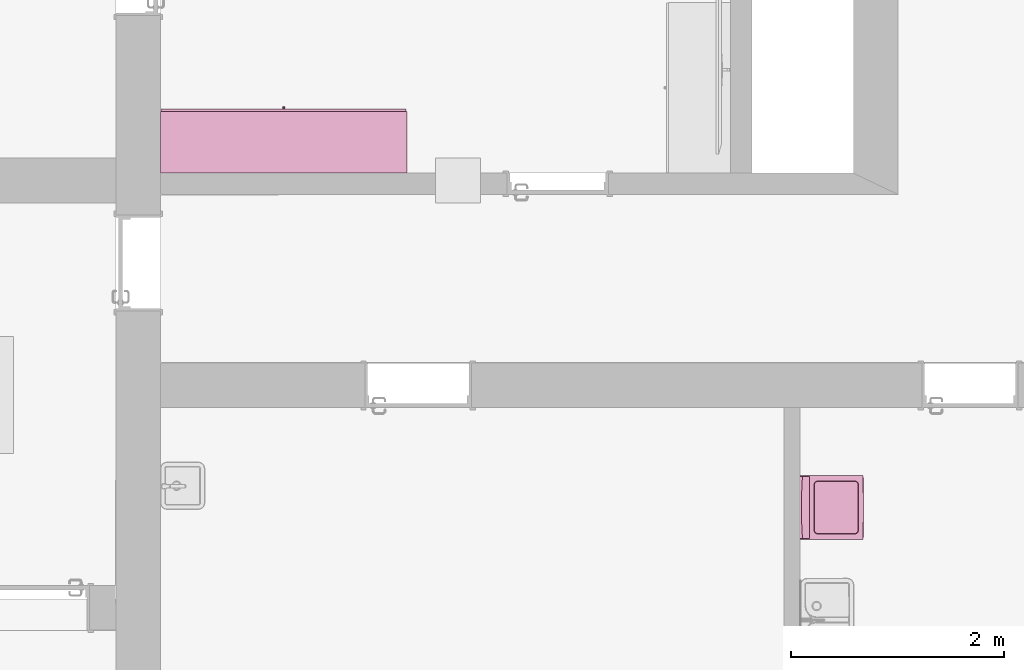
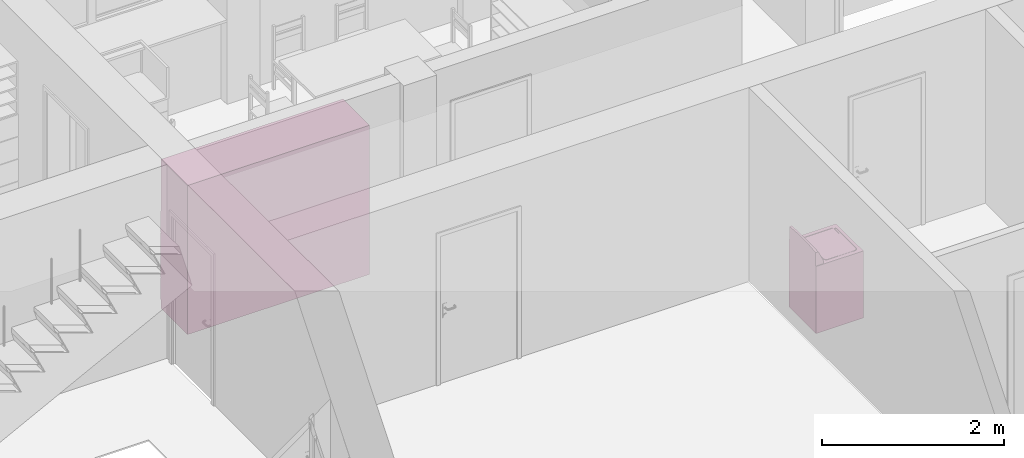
# One storey, part 104 of 127: 2 furnishings.
"""IFC2X3 building model written with IfcOpenShell, lengths in millimetres."""

from ifc_helpers import new_model, entity, si_unit, converted_unit, derived_unit, money_unit, direction, frame, origin_with_axes, place, context, subcontext, project, spatial, faceted_brep, type_object, element, save


model = new_model("IFC2X3")

# Units and contexts
model_context = context("Model", 3, precision=1e-05, world=origin_with_axes(), true_north=direction((0.0, 1.0)))
body_context = subcontext(model_context, "Body", "Model", "MODEL_VIEW")
ifc_project = project(units=[si_unit("LENGTHUNIT", "METRE", prefix="MILLI"), si_unit("AREAUNIT", "SQUARE_METRE"), si_unit("VOLUMEUNIT", "CUBIC_METRE"), converted_unit("PLANEANGLEUNIT", "DEGREE", entity("IfcPlaneAngleMeasure", 0.0174532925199), si_unit("PLANEANGLEUNIT", "RADIAN"), dimensions=[0, 0, 0, 0, 0, 0, 0]), si_unit("SOLIDANGLEUNIT", "STERADIAN"), money_unit("EUR"), converted_unit("TIMEUNIT", "Year", entity("IfcTimeMeasure", 31556926.0), si_unit("TIMEUNIT", "SECOND"), dimensions=[0, 0, 1, 0, 0, 0, 0]), si_unit("MASSUNIT", "GRAM", prefix="KILO"), si_unit("THERMODYNAMICTEMPERATUREUNIT", "DEGREE_CELSIUS"), si_unit("LUMINOUSINTENSITYUNIT", "LUMEN"), si_unit("ENERGYUNIT", "JOULE", prefix="MEGA"), derived_unit("THERMALCONDUCTANCEUNIT", [(si_unit("POWERUNIT", "WATT"), 1), (si_unit("LENGTHUNIT", "METRE"), -1), (si_unit("THERMODYNAMICTEMPERATUREUNIT", "KELVIN"), -1)]), derived_unit("SPECIFICHEATCAPACITYUNIT", [(si_unit("ENERGYUNIT", "JOULE"), 1), (si_unit("MASSUNIT", "GRAM", prefix="KILO"), -1), (si_unit("THERMODYNAMICTEMPERATUREUNIT", "KELVIN"), -1)]), derived_unit("MASSDENSITYUNIT", [(si_unit("MASSUNIT", "GRAM", prefix="KILO"), 1), (si_unit("VOLUMEUNIT", "CUBIC_METRE"), -1)])], contexts=[model_context])

# Site, building, storey
site_placement = place(None, origin_with_axes())
site = spatial("IfcSite", under=ifc_project, at=site_placement, Name="Site", CompositionType="ELEMENT")
building_placement = place(site_placement, origin_with_axes())
building = spatial("IfcBuilding", under=site, at=building_placement, Name="Building", CompositionType="ELEMENT")
storey_placement = place(building_placement, origin_with_axes())
storey = spatial("IfcBuildingStorey", under=building, at=storey_placement, Name="1 KORRUS", CompositionType="ELEMENT", Elevation=0.0)

# Furnishings
furnishing_element_type_1 = type_object("IfcFurnishingElementType", Name="Washer 22")
furnishing_1_placement = place(storey_placement, frame((37143.4019082, 39746.1689617, 0.0), z_axis=(0.0, 0.0, 1.0), x_axis=(0.0, 1.0, 0.0)))
element("IfcFurnishingElement", 1, at=furnishing_1_placement, inside=storey, type_object=furnishing_element_type_1, Name="FU - 002", context=body_context, shape_type="Brep", body=[
    faceted_brep([(300.0, 0.0, 0.0), (-300.0, 0.0, 0.0), (-300.0, 0.0, 100.0), (300.0, 0.0, 100.0), (300.0, -600.0, 0.0), (280.0, -600.0, 0.0), (280.0, -590.0, 0.0), (-280.0, -590.0, 0.0), (-280.0, -600.0, 0.0), (-300.0, -600.0, 0.0), (-300.0, -600.0, 100.0), (-280.0, -600.0, 100.0), (-280.0, -590.0, 100.0), (280.0, -590.0, 100.0), (280.0, -600.0, 100.0), (300.0, -600.0, 100.0)], [[[0, 1, 2, 3]], [[0, 4, 5, 6, 7, 8, 9, 1]], [[1, 9, 10, 2]], [[3, 2, 10, 11, 12, 13, 14, 15]], [[4, 0, 3, 15]], [[5, 4, 15, 14]], [[6, 5, 14, 13]], [[7, 6, 13, 12]], [[8, 7, 12, 11]], [[9, 8, 11, 10]]]),
    faceted_brep([(300.0, 0.0, 100.0), (-300.0, 0.0, 100.0), (-300.0, 0.0, 870.0), (300.0, 0.0, 870.0), (300.0, -600.0, 100.0), (-300.0, -600.0, 100.0), (-300.0, -600.0, 870.0), (300.0, -600.0, 870.0)], [[[0, 1, 2, 3]], [[0, 4, 5, 1]], [[1, 5, 6, 2]], [[3, 2, 6, 7]], [[4, 0, 3, 7]], [[5, 4, 7, 6]]]),
    faceted_brep([(300.0, 0.0, 870.0), (-300.0, 0.0, 870.0), (-300.0, 0.0, 900.0), (300.0, 0.0, 900.0), (300.0, -600.0, 870.0), (-300.0, -600.0, 870.0), (250.0, -180.0, 870.0), (248.042260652, -167.639320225, 870.0), (242.360679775, -156.488589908, 870.0), (233.511410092, -147.639320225, 870.0), (222.360679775, -141.957739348, 870.0), (210.0, -140.0, 870.0), (-210.0, -140.0, 870.0), (-222.360679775, -141.957739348, 870.0), (-233.511410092, -147.639320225, 870.0), (-242.360679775, -156.488589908, 870.0), (-248.042260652, -167.639320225, 870.0), (-250.0, -180.0, 870.0), (-250.0, -520.0, 870.0), (-248.042260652, -532.360679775, 870.0), (-242.360679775, -543.511410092, 870.0), (-233.511410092, -552.360679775, 870.0), (-222.360679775, -558.042260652, 870.0), (-210.0, -560.0, 870.0), (210.0, -560.0, 870.0), (222.360679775, -558.042260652, 870.0), (233.511410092, -552.360679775, 870.0), (242.360679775, -543.511410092, 870.0), (248.042260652, -532.360679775, 870.0), (250.0, -520.0, 870.0), (-300.0, -600.0, 900.0), (300.0, -600.0, 900.0), (250.0, -180.0, 900.0), (250.0, -520.0, 900.0), (248.042260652, -532.360679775, 900.0), (242.360679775, -543.511410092, 900.0), (233.511410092, -552.360679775, 900.0), (222.360679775, -558.042260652, 900.0), (210.0, -560.0, 900.0), (-210.0, -560.0, 900.0), (-222.360679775, -558.042260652, 900.0), (-233.511410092, -552.360679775, 900.0), (-242.360679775, -543.511410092, 900.0), (-248.042260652, -532.360679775, 900.0), (-250.0, -520.0, 900.0), (-250.0, -180.0, 900.0), (-248.042260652, -167.639320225, 900.0), (-242.360679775, -156.488589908, 900.0), (-233.511410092, -147.639320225, 900.0), (-222.360679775, -141.957739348, 900.0), (-210.0, -140.0, 900.0), (210.0, -140.0, 900.0), (222.360679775, -141.957739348, 900.0), (233.511410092, -147.639320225, 900.0), (242.360679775, -156.488589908, 900.0), (248.042260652, -167.639320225, 900.0)], [[[0, 1, 2, 3]], [[0, 4, 5, 1], [6, 7, 8, 9, 10, 11, 12, 13, 14, 15, 16, 17, 18, 19, 20, 21, 22, 23, 24, 25, 26, 27, 28, 29]], [[1, 5, 30, 2]], [[3, 2, 30, 31], [32, 33, 34, 35, 36, 37, 38, 39, 40, 41, 42, 43, 44, 45, 46, 47, 48, 49, 50, 51, 52, 53, 54, 55]], [[4, 0, 3, 31]], [[5, 4, 31, 30]], [[7, 6, 32, 55]], [[8, 7, 55, 54]], [[9, 8, 54, 53]], [[10, 9, 53, 52]], [[11, 10, 52, 51]], [[12, 11, 51, 50]], [[13, 12, 50, 49]], [[14, 13, 49, 48]], [[15, 14, 48, 47]], [[16, 15, 47, 46]], [[17, 16, 46, 45]], [[18, 17, 45, 44]], [[19, 18, 44, 43]], [[20, 19, 43, 42]], [[21, 20, 42, 41]], [[22, 21, 41, 40]], [[23, 22, 40, 39]], [[24, 23, 39, 38]], [[25, 24, 38, 37]], [[26, 25, 37, 36]], [[27, 26, 36, 35]], [[28, 27, 35, 34]], [[29, 28, 34, 33]], [[6, 29, 33, 32]]]),
    faceted_brep([(245.0, -180.0, 870.0), (243.28697807, -169.184405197, 870.0), (243.28697807, -169.184405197, 900.0), (245.0, -180.0, 900.0), (245.0, -520.0, 870.0), (243.28697807, -530.815594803, 870.0), (238.315594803, -540.57248383, 870.0), (230.57248383, -548.315594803, 870.0), (220.815594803, -553.28697807, 870.0), (210.0, -555.0, 870.0), (-210.0, -555.0, 870.0), (-220.815594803, -553.28697807, 870.0), (-230.57248383, -548.315594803, 870.0), (-238.315594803, -540.57248383, 870.0), (-243.28697807, -530.815594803, 870.0), (-245.0, -520.0, 870.0), (-245.0, -180.0, 870.0), (-243.28697807, -169.184405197, 870.0), (-238.315594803, -159.42751617, 870.0), (-230.57248383, -151.684405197, 870.0), (-220.815594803, -146.71302193, 870.0), (-210.0, -145.0, 870.0), (210.0, -145.0, 870.0), (220.815594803, -146.71302193, 870.0), (230.57248383, -151.684405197, 870.0), (238.315594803, -159.42751617, 870.0), (238.315594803, -159.42751617, 900.0), (230.57248383, -151.684405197, 900.0), (220.815594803, -146.71302193, 900.0), (210.0, -145.0, 900.0), (-210.0, -145.0, 900.0), (-220.815594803, -146.71302193, 900.0), (-230.57248383, -151.684405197, 900.0), (-238.315594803, -159.42751617, 900.0), (-243.28697807, -169.184405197, 900.0), (-245.0, -180.0, 900.0), (-245.0, -520.0, 900.0), (-243.28697807, -530.815594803, 900.0), (-238.315594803, -540.57248383, 900.0), (-230.57248383, -548.315594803, 900.0), (-220.815594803, -553.28697807, 900.0), (-210.0, -555.0, 900.0), (210.0, -555.0, 900.0), (220.815594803, -553.28697807, 900.0), (230.57248383, -548.315594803, 900.0), (238.315594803, -540.57248383, 900.0), (243.28697807, -530.815594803, 900.0), (245.0, -520.0, 900.0)], [[[0, 1, 2, 3]], [[0, 4, 5, 6, 7, 8, 9, 10, 11, 12, 13, 14, 15, 16, 17, 18, 19, 20, 21, 22, 23, 24, 25, 1]], [[1, 25, 26, 2]], [[3, 2, 26, 27, 28, 29, 30, 31, 32, 33, 34, 35, 36, 37, 38, 39, 40, 41, 42, 43, 44, 45, 46, 47]], [[4, 0, 3, 47]], [[5, 4, 47, 46]], [[6, 5, 46, 45]], [[7, 6, 45, 44]], [[8, 7, 44, 43]], [[9, 8, 43, 42]], [[10, 9, 42, 41]], [[11, 10, 41, 40]], [[12, 11, 40, 39]], [[13, 12, 39, 38]], [[14, 13, 38, 37]], [[15, 14, 37, 36]], [[16, 15, 36, 35]], [[17, 16, 35, 34]], [[18, 17, 34, 33]], [[19, 18, 33, 32]], [[20, 19, 32, 31]], [[21, 20, 31, 30]], [[22, 21, 30, 29]], [[23, 22, 29, 28]], [[24, 23, 28, 27]], [[25, 24, 27, 26]]]),
    faceted_brep([(-290.0, 0.0, 900.0), (-191.154273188, 0.0, 900.0), (-191.154273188, -100.0, 900.0), (-290.0, -100.0, 900.0), (-290.0, 0.0, 1080.0), (-240.752911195, 0.0, 1085.10463703), (-240.752911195, -30.2612047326, 1085.10463703), (-200.679681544, -100.0, 935.549307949), (-290.0, -100.0, 935.549307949), (-290.0, -32.6415360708, 1080.0)], [[[0, 1, 2, 3]], [[0, 4, 5, 1]], [[1, 5, 6, 7, 2]], [[3, 2, 7, 8]], [[4, 0, 3, 8, 9]], [[5, 4, 9, 6]], [[6, 9, 8, 7]]]),
    faceted_brep([(191.154273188, 0.0, 900.0), (290.0, 0.0, 900.0), (290.0, -100.0, 900.0), (191.154273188, -100.0, 900.0), (240.752911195, 0.0, 1085.10463703), (290.0, 0.0, 1080.0), (290.0, -32.6415360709, 1080.0), (290.0, -100.0, 935.549307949), (200.679681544, -100.0, 935.549307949), (240.752911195, -30.2612047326, 1085.10463703)], [[[0, 1, 2, 3]], [[4, 5, 1, 0]], [[1, 5, 6, 7, 2]], [[3, 2, 7, 8]], [[0, 3, 8, 9, 4]], [[5, 4, 9, 6]], [[7, 6, 9, 8]]]),
    faceted_brep([(-191.154273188, 0.0, 900.0), (191.154273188, 0.0, 900.0), (191.154273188, -100.0, 900.0), (-191.154273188, -100.0, 900.0), (-240.752911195, 0.0, 1085.10463703), (-145.344418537, 0.0, 1094.99406879), (0.0, 0.0, 1100.0), (145.344418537, 0.0, 1094.99406879), (240.752911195, 0.0, 1085.10463703), (240.752911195, -30.2612047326, 1085.10463703), (200.679681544, -100.0, 935.549307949), (-200.679681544, -100.0, 935.549307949), (-240.752911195, -30.2612047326, 1085.10463703), (-145.344418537, -25.6496869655, 1094.99406879), (0.0, -23.3153829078, 1100.0), (145.344418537, -25.6496869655, 1094.99406879)], [[[0, 1, 2, 3]], [[4, 5, 6, 7, 8, 1, 0]], [[1, 8, 9, 10, 2]], [[3, 2, 10, 11]], [[0, 3, 11, 12, 4]], [[5, 4, 12, 13]], [[6, 5, 13, 14]], [[7, 6, 14, 15]], [[8, 7, 15, 9]], [[9, 15, 14, 13, 12, 11, 10]]]),
    faceted_brep([(0.0, -600.0, 890.0), (-273.0, -600.0, 881.8), (-273.0, -605.0, 881.8), (0.0, -605.0, 890.0), (273.0, -600.0, 881.8), (277.840682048, -600.0, 880.023913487), (281.335304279, -600.0, 875.73137316), (282.606559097, -600.0, 870.0), (281.335304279, -600.0, 864.26862684), (277.840682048, -600.0, 859.976086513), (273.0, -600.0, 858.2), (0.0, -600.0, 850.0), (-273.0, -600.0, 858.2), (-277.840682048, -600.0, 859.976086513), (-281.335304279, -600.0, 864.26862684), (-282.606559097, -600.0, 870.0), (-281.335304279, -600.0, 875.73137316), (-277.840682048, -600.0, 880.023913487), (-277.840682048, -605.0, 880.023913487), (-281.335304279, -605.0, 875.73137316), (-282.606559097, -605.0, 870.0), (-281.335304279, -605.0, 864.26862684), (-277.840682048, -605.0, 859.976086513), (-273.0, -605.0, 858.2), (0.0, -605.0, 850.0), (273.0, -605.0, 858.2), (277.840682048, -605.0, 859.976086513), (281.335304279, -605.0, 864.26862684), (282.606559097, -605.0, 870.0), (281.335304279, -605.0, 875.73137316), (277.840682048, -605.0, 880.023913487), (273.0, -605.0, 881.8)], [[[0, 1, 2, 3]], [[0, 4, 5, 6, 7, 8, 9, 10, 11, 12, 13, 14, 15, 16, 17, 1]], [[1, 17, 18, 2]], [[3, 2, 18, 19, 20, 21, 22, 23, 24, 25, 26, 27, 28, 29, 30, 31]], [[4, 0, 3, 31]], [[5, 4, 31, 30]], [[6, 5, 30, 29]], [[7, 6, 29, 28]], [[8, 7, 28, 27]], [[9, 8, 27, 26]], [[10, 9, 26, 25]], [[11, 10, 25, 24]], [[12, 11, 24, 23]], [[13, 12, 23, 22]], [[14, 13, 22, 21]], [[15, 14, 21, 20]], [[16, 15, 20, 19]], [[17, 16, 19, 18]]]),
    faceted_brep([(-236.123142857, -534.182, 900.0), (-238.326076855, -535.09859277, 900.0), (-238.326076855, -535.09859277, 903.0), (-236.123142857, -534.182, 903.0), (236.123084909, -534.183028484, 900.0), (238.325596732, -535.09945798, 900.0), (239.866274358, -537.151729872, 900.0), (240.354634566, -539.819697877, 900.0), (239.666902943, -542.427168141, 900.0), (237.97738439, -544.313279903, 900.0), (235.714285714, -545.0, 900.0), (85.7142857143, -545.0, 900.0), (85.7142857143, -555.0, 900.0), (-85.7142857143, -555.0, 900.0), (-85.7142857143, -545.0, 900.0), (-235.714305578, -545.001030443, 900.0), (-237.977832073, -544.314168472, 900.0), (-239.66766498, -542.42768963, 900.0), (-240.35551782, -539.819720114, 900.0), (-239.867054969, -537.151247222, 900.0), (-239.867054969, -537.151247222, 903.0), (-240.35551782, -539.819720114, 903.0), (-239.66766498, -542.42768963, 903.0), (-237.977832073, -544.314168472, 903.0), (-235.714305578, -545.001030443, 903.0), (-85.7142857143, -545.0, 903.0), (-85.7142857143, -555.0, 903.0), (85.7142857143, -555.0, 903.0), (85.7142857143, -545.0, 903.0), (235.714285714, -545.0, 903.0), (237.97738439, -544.313279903, 903.0), (239.666902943, -542.427168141, 903.0), (240.354634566, -539.819697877, 903.0), (239.866274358, -537.151729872, 903.0), (238.325596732, -535.09945798, 903.0), (236.123084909, -534.183028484, 903.0)], [[[0, 1, 2, 3]], [[0, 4, 5, 6, 7, 8, 9, 10, 11, 12, 13, 14, 15, 16, 17, 18, 19, 1]], [[1, 19, 20, 2]], [[3, 2, 20, 21, 22, 23, 24, 25, 26, 27, 28, 29, 30, 31, 32, 33, 34, 35]], [[4, 0, 3, 35]], [[5, 4, 35, 34]], [[6, 5, 34, 33]], [[7, 6, 33, 32]], [[8, 7, 32, 31]], [[9, 8, 31, 30]], [[10, 9, 30, 29]], [[11, 10, 29, 28]], [[12, 11, 28, 27]], [[13, 12, 27, 26]], [[14, 13, 26, 25]], [[15, 14, 25, 24]], [[16, 15, 24, 23]], [[17, 16, 23, 22]], [[18, 17, 22, 21]], [[19, 18, 21, 20]]]),
])
furnishing_element_type_2 = type_object("IfcFurnishingElementType", Name="Model Element 22")
furnishing_2_placement = place(storey_placement, frame((33463.8135941, 43482.4199074, 0.0), z_axis=(0.0, 0.0, 1.0), x_axis=(-1.0, 0.0, 0.0)))
element("IfcFurnishingElement", 2, at=furnishing_2_placement, inside=storey, type_object=furnishing_element_type_2, Name="FU - 013", context=body_context, shape_type="Brep", body=[
    faceted_brep([(2310.01295826, 19.0, 0.0), (0.0, 19.0, 0.0), (0.0, 599.999999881, 0.0), (2310.01295826, 599.999999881, 0.0), (2310.01295826, 19.0, 100.0), (0.0, 19.0, 100.0), (0.0, 599.999999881, 100.0), (2310.01295826, 599.999999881, 100.0)], [[[0, 1, 2, 3]], [[1, 0, 4, 5]], [[2, 1, 5, 6]], [[3, 2, 6, 7]], [[0, 3, 7, 4]], [[5, 4, 7, 6]]]),
    faceted_brep([(19.0, 599.999999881, 119.0), (19.0, 580.999999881, 119.0), (19.0, 580.999999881, 1981.0), (19.0, 599.999999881, 1981.0), (2291.01295826, 599.999999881, 119.0), (2291.01295826, 580.999999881, 119.0), (2291.01295826, 580.999999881, 1981.0), (2291.01295826, 599.999999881, 1981.0)], [[[0, 1, 2, 3]], [[0, 4, 5, 1]], [[1, 5, 6, 2]], [[3, 2, 6, 7]], [[4, 0, 3, 7]], [[5, 4, 7, 6]]]),
    faceted_brep([(2310.01295826, 19.0, 100.0), (2291.01295826, 19.0, 100.0), (2291.01295826, 599.999999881, 100.0), (2310.01295826, 599.999999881, 100.0), (2310.01295826, 19.0, 2000.0), (2291.01295826, 19.0, 2000.0), (2291.01295826, 599.999999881, 2000.0), (2310.01295826, 599.999999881, 2000.0)], [[[0, 1, 2, 3]], [[1, 0, 4, 5]], [[2, 1, 5, 6]], [[3, 2, 6, 7]], [[0, 3, 7, 4]], [[5, 4, 7, 6]]]),
    faceted_brep([(19.0, 19.0, 100.0), (0.0, 19.0, 100.0), (0.0, 599.999999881, 100.0), (19.0, 599.999999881, 100.0), (19.0, 19.0, 2000.0), (0.0, 19.0, 2000.0), (0.0, 599.999999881, 2000.0), (19.0, 599.999999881, 2000.0)], [[[0, 1, 2, 3]], [[1, 0, 4, 5]], [[2, 1, 5, 6]], [[3, 2, 6, 7]], [[0, 3, 7, 4]], [[5, 4, 7, 6]]]),
    faceted_brep([(2291.01295826, 19.0, 100.0), (19.0, 19.0, 100.0), (19.0, 599.999999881, 100.0), (2291.01295826, 599.999999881, 100.0), (2291.01295826, 19.0, 119.0), (19.0, 19.0, 119.0), (19.0, 599.999999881, 119.0), (2291.01295826, 599.999999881, 119.0)], [[[0, 1, 2, 3]], [[1, 0, 4, 5]], [[2, 1, 5, 6]], [[3, 2, 6, 7]], [[0, 3, 7, 4]], [[5, 4, 7, 6]]]),
    faceted_brep([(2291.01295826, 19.0, 1981.0), (19.0, 19.0, 1981.0), (19.0, 599.999999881, 1981.0), (2291.01295826, 599.999999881, 1981.0), (2291.01295826, 19.0, 2000.0), (19.0, 19.0, 2000.0), (19.0, 599.999999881, 2000.0), (2291.01295826, 599.999999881, 2000.0)], [[[0, 1, 2, 3]], [[1, 0, 4, 5]], [[2, 1, 5, 6]], [[3, 2, 6, 7]], [[0, 3, 7, 4]], [[5, 4, 7, 6]]]),
    faceted_brep([(5.0, 19.0, 105.0), (2305.01295826, 19.0, 105.0), (2305.01295826, 0.0, 105.0), (5.0, 0.0, 105.0), (5.0, 19.0, 395.0), (2305.01295826, 19.0, 395.0), (2305.01295826, 0.0, 395.0), (5.0, 0.0, 395.0)], [[[0, 1, 2, 3]], [[0, 4, 5, 1]], [[1, 5, 6, 2]], [[3, 2, 6, 7]], [[4, 0, 3, 7]], [[5, 4, 7, 6]]]),
    faceted_brep([(1165.39878397, 0.0, 244.0), (1161.00647913, 0.0, 239.607695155), (1155.00647913, 0.0, 238.0), (1149.00647913, 0.0, 239.607695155), (1144.61417428, 0.0, 244.0), (1143.00647913, 0.0, 250.0), (1144.61417428, 0.0, 256.0), (1149.00647913, 0.0, 260.392304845), (1155.00647913, 0.0, 262.0), (1161.00647913, 0.0, 260.392304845), (1165.39878397, 0.0, 256.0), (1167.00647913, 0.0, 250.0), (1165.39878397, -25.0, 244.0), (1161.00647913, -25.0, 239.607695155), (1155.00647913, -25.0, 238.0), (1149.00647913, -25.0, 239.607695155), (1144.61417428, -25.0, 244.0), (1143.00647913, -25.0, 250.0), (1144.61417428, -25.0, 256.0), (1149.00647913, -25.0, 260.392304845), (1155.00647913, -25.0, 262.0), (1161.00647913, -25.0, 260.392304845), (1165.39878397, -25.0, 256.0), (1167.00647913, -25.0, 250.0)], [[[0, 1, 2, 3, 4, 5, 6, 7, 8, 9, 10, 11]], [[1, 0, 12, 13]], [[2, 1, 13, 14]], [[3, 2, 14, 15]], [[4, 3, 15, 16]], [[5, 4, 16, 17]], [[6, 5, 17, 18]], [[7, 6, 18, 19]], [[8, 7, 19, 20]], [[9, 8, 20, 21]], [[10, 9, 21, 22]], [[11, 10, 22, 23]], [[0, 11, 23, 12]], [[12, 23, 22, 21, 20, 19, 18, 17, 16, 15, 14, 13]]]),
    faceted_brep([(5.0, 19.0, 405.0), (2305.01295826, 19.0, 405.0), (2305.01295826, 0.0, 405.0), (5.0, 0.0, 405.0), (5.0, 19.0, 695.0), (2305.01295826, 19.0, 695.0), (2305.01295826, 0.0, 695.0), (5.0, 0.0, 695.0)], [[[0, 1, 2, 3]], [[0, 4, 5, 1]], [[1, 5, 6, 2]], [[3, 2, 6, 7]], [[4, 0, 3, 7]], [[5, 4, 7, 6]]]),
    faceted_brep([(1165.39878397, 0.0, 544.0), (1161.00647913, 0.0, 539.607695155), (1155.00647913, 0.0, 538.0), (1149.00647913, 0.0, 539.607695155), (1144.61417428, 0.0, 544.0), (1143.00647913, 0.0, 550.0), (1144.61417428, 0.0, 556.0), (1149.00647913, 0.0, 560.392304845), (1155.00647913, 0.0, 562.0), (1161.00647913, 0.0, 560.392304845), (1165.39878397, 0.0, 556.0), (1167.00647913, 0.0, 550.0), (1165.39878397, -25.0, 544.0), (1161.00647913, -25.0, 539.607695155), (1155.00647913, -25.0, 538.0), (1149.00647913, -25.0, 539.607695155), (1144.61417428, -25.0, 544.0), (1143.00647913, -25.0, 550.0), (1144.61417428, -25.0, 556.0), (1149.00647913, -25.0, 560.392304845), (1155.00647913, -25.0, 562.0), (1161.00647913, -25.0, 560.392304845), (1165.39878397, -25.0, 556.0), (1167.00647913, -25.0, 550.0)], [[[0, 1, 2, 3, 4, 5, 6, 7, 8, 9, 10, 11]], [[1, 0, 12, 13]], [[2, 1, 13, 14]], [[3, 2, 14, 15]], [[4, 3, 15, 16]], [[5, 4, 16, 17]], [[6, 5, 17, 18]], [[7, 6, 18, 19]], [[8, 7, 19, 20]], [[9, 8, 20, 21]], [[10, 9, 21, 22]], [[11, 10, 22, 23]], [[0, 11, 23, 12]], [[12, 23, 22, 21, 20, 19, 18, 17, 16, 15, 14, 13]]]),
    faceted_brep([(5.0, 19.0, 705.0), (2305.01295826, 19.0, 705.0), (2305.01295826, 0.0, 705.0), (5.0, 0.0, 705.0), (5.0, 19.0, 995.0), (2305.01295826, 19.0, 995.0), (2305.01295826, 0.0, 995.0), (5.0, 0.0, 995.0)], [[[0, 1, 2, 3]], [[0, 4, 5, 1]], [[1, 5, 6, 2]], [[3, 2, 6, 7]], [[4, 0, 3, 7]], [[5, 4, 7, 6]]]),
    faceted_brep([(1165.39878397, 0.0, 844.0), (1161.00647913, 0.0, 839.607695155), (1155.00647913, 0.0, 838.0), (1149.00647913, 0.0, 839.607695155), (1144.61417428, 0.0, 844.0), (1143.00647913, 0.0, 850.0), (1144.61417428, 0.0, 856.0), (1149.00647913, 0.0, 860.392304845), (1155.00647913, 0.0, 862.0), (1161.00647913, 0.0, 860.392304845), (1165.39878397, 0.0, 856.0), (1167.00647913, 0.0, 850.0), (1165.39878397, -25.0, 844.0), (1161.00647913, -25.0, 839.607695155), (1155.00647913, -25.0, 838.0), (1149.00647913, -25.0, 839.607695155), (1144.61417428, -25.0, 844.0), (1143.00647913, -25.0, 850.0), (1144.61417428, -25.0, 856.0), (1149.00647913, -25.0, 860.392304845), (1155.00647913, -25.0, 862.0), (1161.00647913, -25.0, 860.392304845), (1165.39878397, -25.0, 856.0), (1167.00647913, -25.0, 850.0)], [[[0, 1, 2, 3, 4, 5, 6, 7, 8, 9, 10, 11]], [[1, 0, 12, 13]], [[2, 1, 13, 14]], [[3, 2, 14, 15]], [[4, 3, 15, 16]], [[5, 4, 16, 17]], [[6, 5, 17, 18]], [[7, 6, 18, 19]], [[8, 7, 19, 20]], [[9, 8, 20, 21]], [[10, 9, 21, 22]], [[11, 10, 22, 23]], [[0, 11, 23, 12]], [[12, 23, 22, 21, 20, 19, 18, 17, 16, 15, 14, 13]]]),
    faceted_brep([(5.0, 19.0, 1005.0), (2305.01295826, 19.0, 1005.0), (2305.01295826, 0.0, 1005.0), (5.0, 0.0, 1005.0), (5.0, 19.0, 1295.0), (2305.01295826, 19.0, 1295.0), (2305.01295826, 0.0, 1295.0), (5.0, 0.0, 1295.0)], [[[0, 1, 2, 3]], [[0, 4, 5, 1]], [[1, 5, 6, 2]], [[3, 2, 6, 7]], [[4, 0, 3, 7]], [[5, 4, 7, 6]]]),
    faceted_brep([(1165.39878397, 0.0, 1144.0), (1161.00647913, 0.0, 1139.60769515), (1155.00647913, 0.0, 1138.0), (1149.00647913, 0.0, 1139.60769515), (1144.61417428, 0.0, 1144.0), (1143.00647913, 0.0, 1150.0), (1144.61417428, 0.0, 1156.0), (1149.00647913, 0.0, 1160.39230485), (1155.00647913, 0.0, 1162.0), (1161.00647913, 0.0, 1160.39230485), (1165.39878397, 0.0, 1156.0), (1167.00647913, 0.0, 1150.0), (1165.39878397, -25.0, 1144.0), (1161.00647913, -25.0, 1139.60769515), (1155.00647913, -25.0, 1138.0), (1149.00647913, -25.0, 1139.60769515), (1144.61417428, -25.0, 1144.0), (1143.00647913, -25.0, 1150.0), (1144.61417428, -25.0, 1156.0), (1149.00647913, -25.0, 1160.39230485), (1155.00647913, -25.0, 1162.0), (1161.00647913, -25.0, 1160.39230485), (1165.39878397, -25.0, 1156.0), (1167.00647913, -25.0, 1150.0)], [[[0, 1, 2, 3, 4, 5, 6, 7, 8, 9, 10, 11]], [[1, 0, 12, 13]], [[2, 1, 13, 14]], [[3, 2, 14, 15]], [[4, 3, 15, 16]], [[5, 4, 16, 17]], [[6, 5, 17, 18]], [[7, 6, 18, 19]], [[8, 7, 19, 20]], [[9, 8, 20, 21]], [[10, 9, 21, 22]], [[11, 10, 22, 23]], [[0, 11, 23, 12]], [[12, 23, 22, 21, 20, 19, 18, 17, 16, 15, 14, 13]]]),
    faceted_brep([(19.0, 19.0, 390.5), (2291.01295826, 19.0, 390.5), (2291.01295826, 19.0, 409.5), (19.0, 19.0, 409.5), (19.0, 580.999999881, 390.5), (2291.01295826, 580.999999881, 390.5), (2291.01295826, 580.999999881, 409.5), (19.0, 580.999999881, 409.5)], [[[0, 1, 2, 3]], [[0, 4, 5, 1]], [[1, 5, 6, 2]], [[3, 2, 6, 7]], [[4, 0, 3, 7]], [[5, 4, 7, 6]]]),
    faceted_brep([(19.0, 19.0, 690.5), (2291.01295826, 19.0, 690.5), (2291.01295826, 19.0, 709.5), (19.0, 19.0, 709.5), (19.0, 580.999999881, 690.5), (2291.01295826, 580.999999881, 690.5), (2291.01295826, 580.999999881, 709.5), (19.0, 580.999999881, 709.5)], [[[0, 1, 2, 3]], [[0, 4, 5, 1]], [[1, 5, 6, 2]], [[3, 2, 6, 7]], [[4, 0, 3, 7]], [[5, 4, 7, 6]]]),
    faceted_brep([(19.0, 19.0, 990.5), (2291.01295826, 19.0, 990.5), (2291.01295826, 19.0, 1009.5), (19.0, 19.0, 1009.5), (19.0, 580.999999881, 990.5), (2291.01295826, 580.999999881, 990.5), (2291.01295826, 580.999999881, 1009.5), (19.0, 580.999999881, 1009.5)], [[[0, 1, 2, 3]], [[0, 4, 5, 1]], [[1, 5, 6, 2]], [[3, 2, 6, 7]], [[4, 0, 3, 7]], [[5, 4, 7, 6]]]),
    faceted_brep([(19.0, 19.0, 1290.5), (2291.01295826, 19.0, 1290.5), (2291.01295826, 19.0, 1309.5), (19.0, 19.0, 1309.5), (19.0, 580.999999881, 1290.5), (2291.01295826, 580.999999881, 1290.5), (2291.01295826, 580.999999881, 1309.5), (19.0, 580.999999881, 1309.5)], [[[0, 1, 2, 3]], [[0, 4, 5, 1]], [[1, 5, 6, 2]], [[3, 2, 6, 7]], [[4, 0, 3, 7]], [[5, 4, 7, 6]]]),
    faceted_brep([(2291.01295826, 19.0, 1463.125), (19.0, 19.0, 1463.125), (19.0, 580.999999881, 1463.125), (2291.01295826, 580.999999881, 1463.125), (2291.01295826, 19.0, 1482.125), (19.0, 19.0, 1482.125), (19.0, 580.999999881, 1482.125), (2291.01295826, 580.999999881, 1482.125)], [[[0, 1, 2, 3]], [[1, 0, 4, 5]], [[2, 1, 5, 6]], [[3, 2, 6, 7]], [[0, 3, 7, 4]], [[5, 4, 7, 6]]]),
    faceted_brep([(2291.01295826, 19.0, 1635.75), (19.0, 19.0, 1635.75), (19.0, 580.999999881, 1635.75), (2291.01295826, 580.999999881, 1635.75), (2291.01295826, 19.0, 1654.75), (19.0, 19.0, 1654.75), (19.0, 580.999999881, 1654.75), (2291.01295826, 580.999999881, 1654.75)], [[[0, 1, 2, 3]], [[1, 0, 4, 5]], [[2, 1, 5, 6]], [[3, 2, 6, 7]], [[0, 3, 7, 4]], [[5, 4, 7, 6]]]),
    faceted_brep([(2291.01295826, 19.0, 1808.375), (19.0, 19.0, 1808.375), (19.0, 580.999999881, 1808.375), (2291.01295826, 580.999999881, 1808.375), (2291.01295826, 19.0, 1827.375), (19.0, 19.0, 1827.375), (19.0, 580.999999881, 1827.375), (2291.01295826, 580.999999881, 1827.375)], [[[0, 1, 2, 3]], [[1, 0, 4, 5]], [[2, 1, 5, 6]], [[3, 2, 6, 7]], [[0, 3, 7, 4]], [[5, 4, 7, 6]]]),
])

save(model, "model.ifc")
